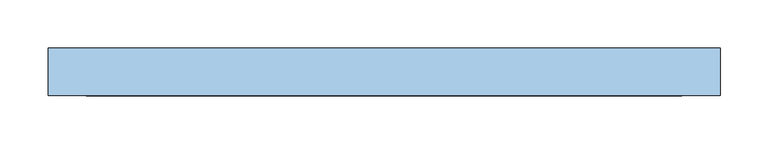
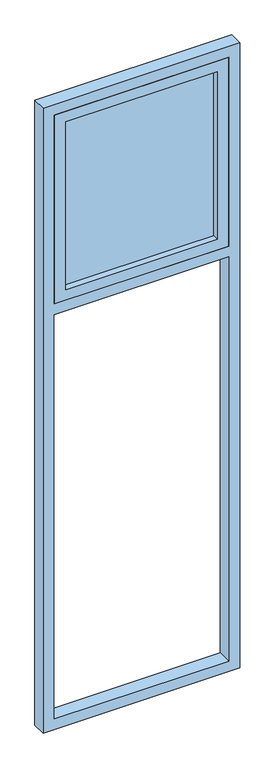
"""IFC4 building model written with IfcOpenShell, lengths in millimetres: window geometry, VENT_ALUM_PROY_ARRIBA : V2-VENT_ALUM_PROY_ARRIBA."""

from ifc_helpers import new_model, si_unit, frame, origin, place, context, project, spatial, polyline, outline, extrude, source, transform, mapped, element, save


def window_25a9a49d(model_context):
    return source(origin(), model_context, "Body", "SweptSolid", [
        extrude(outline(polyline([(2100.0, -310.0), (2100.0, 310.0), (2810.0, 310.0), (2810.0, -310.0), (2100.0, -310.0)]), holes=[polyline([(2770.0, -270.0), (2770.0, 270.0), (2140.0, 270.0), (2140.0, -270.0), (2770.0, -270.0)])]), frame((0.0, -25.0, 0.0), z_axis=(0.0, 1.0, 0.0), x_axis=(0.0, 0.0, 1.0)), (0.0, 0.0, 1.0), 50.0),
        extrude(outline(polyline([(310.0, -3.0), (-310.0, -3.0), (-310.0, 3.0), (310.0, 3.0), (310.0, -3.0)])), frame((0.0, 0.0, 2140.0), z_axis=(0.0, 0.0, 1.0), x_axis=(1.0, 0.0, 0.0)), (0.0, 0.0, 1.0), 670.0),
        extrude(outline(polyline([(2850.0, -350.0), (500.0, -350.0), (500.0, 350.0), (2850.0, 350.0), (2850.0, -350.0)]), holes=[polyline([(2060.0, -310.0), (2060.0, 310.0), (540.0, 310.0), (540.0, -310.0), (2060.0, -310.0)]), polyline([(2100.0, 310.0), (2100.0, -310.0), (2810.0, -310.0), (2810.0, 310.0), (2100.0, 310.0)])]), frame((0.0, -25.0, 0.0), z_axis=(0.0, 1.0, 0.0), x_axis=(0.0, 0.0, 1.0)), (0.0, 0.0, 1.0), 50.0),
    ])


if __name__ == "__main__":
    model = new_model("IFC4")
    model_context = context("Model", 3, world=origin())
    ifc_project = project(units=[si_unit("LENGTHUNIT", "METRE", prefix="MILLI")], contexts=[model_context])
    site = spatial("IfcSite", under=ifc_project)
    building = spatial("IfcBuilding", under=site)
    placement = place(None, origin())
    window_shape = window_25a9a49d(model_context)
    element("IfcWindow", 1, ObjectType="VENT_ALUM_PROY_ARRIBA : V2-VENT_ALUM_PROY_ARRIBA", at=placement, inside=building, context=model_context, shape_type="MappedRepresentation", body=[
        mapped(window_shape, transform((0.0, 0.0, 0.0), x_axis=(1.0, 0.0, 0.0), y_axis=(0.0, 1.0, 0.0), z_axis=(0.0, 0.0, 1.0))),
    ])
    save(model, "model.ifc")
